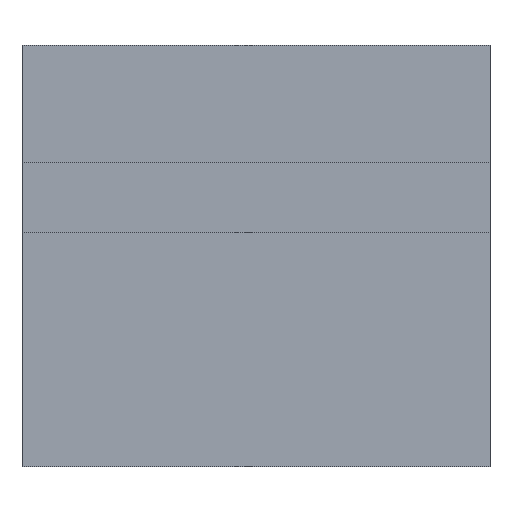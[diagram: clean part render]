
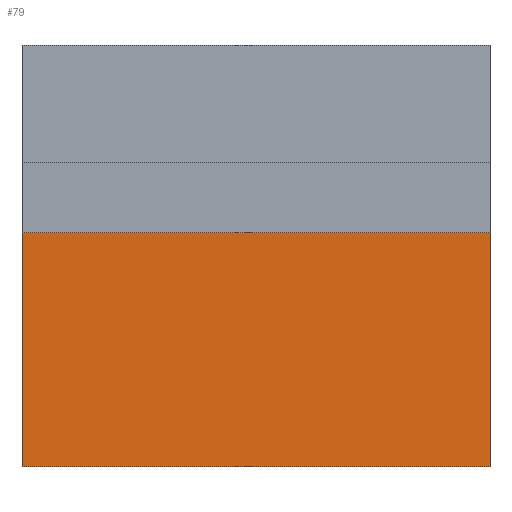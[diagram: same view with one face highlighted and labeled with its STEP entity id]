
A CAD part, front view. The second image highlights one B-rep face of the part: STEP entity #79.
In plain terms, the highlighted planar face has unit normal (0, -1, 0).
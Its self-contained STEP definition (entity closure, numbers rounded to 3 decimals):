
#7 = VECTOR ( 'NONE', #313, 1000. ) ;
#13 = CARTESIAN_POINT ( 'NONE',  ( -10., 0., -5. ) ) ;
#32 = VERTEX_POINT ( 'NONE', #205 ) ;
#41 = CARTESIAN_POINT ( 'NONE',  ( 10., 0., -18. ) ) ;
#49 = ORIENTED_EDGE ( 'NONE', *, *, #301, .T. ) ;
#79 = ADVANCED_FACE ( 'NONE', ( #242 ), #467, .F. ) ;
#108 = EDGE_CURVE ( 'NONE', #228, #385, #408, .T. ) ;
#111 = CARTESIAN_POINT ( 'NONE',  ( 10., 0., -18. ) ) ;
#135 = VECTOR ( 'NONE', #239, 1000. ) ;
#143 = ORIENTED_EDGE ( 'NONE', *, *, #108, .F. ) ;
#147 = AXIS2_PLACEMENT_3D ( 'NONE', #393, #355, #446 ) ;
#196 = CARTESIAN_POINT ( 'NONE',  ( 10., 0., -5. ) ) ;
#198 = EDGE_LOOP ( 'NONE', ( #274, #143, #475, #49 ) ) ;
#205 = CARTESIAN_POINT ( 'NONE',  ( 10., 0., -5. ) ) ;
#223 = CARTESIAN_POINT ( 'NONE',  ( -10., 0., -18. ) ) ;
#228 = VERTEX_POINT ( 'NONE', #372 ) ;
#231 = VECTOR ( 'NONE', #317, 1000. ) ;
#239 = DIRECTION ( 'NONE',  ( 0., 0., 1. ) ) ;
#242 = FACE_OUTER_BOUND ( 'NONE', #198, .T. ) ;
#270 = EDGE_CURVE ( 'NONE', #310, #228, #421, .T. ) ;
#274 = ORIENTED_EDGE ( 'NONE', *, *, #278, .T. ) ;
#278 = EDGE_CURVE ( 'NONE', #32, #385, #460, .T. ) ;
#301 = EDGE_CURVE ( 'NONE', #310, #32, #350, .T. ) ;
#310 = VERTEX_POINT ( 'NONE', #497 ) ;
#313 = DIRECTION ( 'NONE',  ( -1., 0., 0. ) ) ;
#317 = DIRECTION ( 'NONE',  ( -1., 0., 0. ) ) ;
#350 = LINE ( 'NONE', #41, #135 ) ;
#355 = DIRECTION ( 'NONE',  ( 0., 1., 0. ) ) ;
#372 = CARTESIAN_POINT ( 'NONE',  ( -10., 0., -18. ) ) ;
#377 = DIRECTION ( 'NONE',  ( 0., 0., 1. ) ) ;
#385 = VERTEX_POINT ( 'NONE', #13 ) ;
#393 = CARTESIAN_POINT ( 'NONE',  ( 10., 0., -18. ) ) ;
#408 = LINE ( 'NONE', #223, #494 ) ;
#421 = LINE ( 'NONE', #111, #231 ) ;
#446 = DIRECTION ( 'NONE',  ( 0., 0., 1. ) ) ;
#460 = LINE ( 'NONE', #196, #7 ) ;
#467 = PLANE ( 'NONE',  #147 ) ;
#475 = ORIENTED_EDGE ( 'NONE', *, *, #270, .F. ) ;
#494 = VECTOR ( 'NONE', #377, 1000. ) ;
#497 = CARTESIAN_POINT ( 'NONE',  ( 10., 0., -18. ) ) ;
